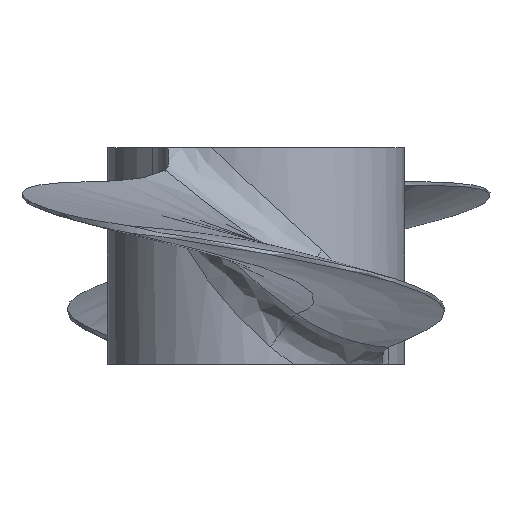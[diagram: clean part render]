
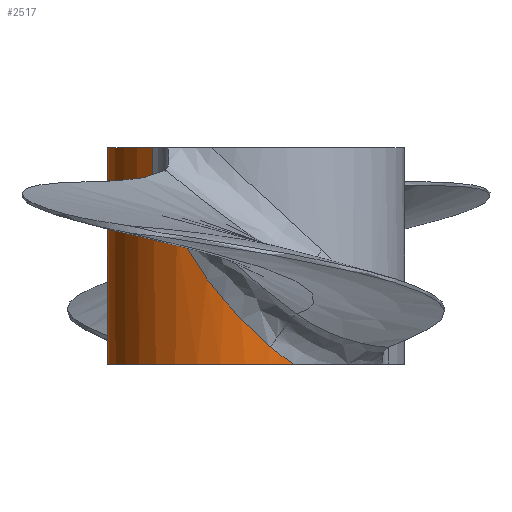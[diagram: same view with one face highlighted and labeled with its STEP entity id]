
A CAD part, left-side view. The second image highlights one B-rep face of the part: STEP entity #2517.
In plain terms, the highlighted cylindrical face has radius 11 mm (diameter 22 mm), a partial arc.
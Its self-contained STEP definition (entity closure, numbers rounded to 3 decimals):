
#52=CARTESIAN_POINT('',(0.,0.,-5.));
#53=DIRECTION('',(0.,0.,1.));
#54=DIRECTION('',(0.,1.,0.));
#55=AXIS2_PLACEMENT_3D('',#52,#53,#54);
#179=CARTESIAN_POINT('',(0.,0.,11.));
#180=DIRECTION('',(0.,0.,-1.));
#181=DIRECTION('',(-0.717,0.697,0.));
#182=AXIS2_PLACEMENT_3D('',#179,#180,#181);
#620=CARTESIAN_POINT('',(-7.884,7.671,8.703));
#621=CARTESIAN_POINT('',(-8.015,7.536,8.35));
#622=CARTESIAN_POINT('',(-8.277,7.253,7.647));
#623=CARTESIAN_POINT('',(-8.777,6.651,6.28));
#624=CARTESIAN_POINT('',(-9.47,5.667,4.324));
#625=CARTESIAN_POINT('',(-10.225,4.198,1.992));
#626=CARTESIAN_POINT('',(-10.727,2.599,
-0.041));
#627=CARTESIAN_POINT('',(-10.899,1.545,-1.2));
#628=CARTESIAN_POINT('',(-10.944,1.105,-1.657));
#629=CARTESIAN_POINT('',(-10.947,1.08,-1.684));
#634=CARTESIAN_POINT('',(-10.947,1.08,-1.684));
#635=CARTESIAN_POINT('',(-10.969,0.852,
-1.915));
#636=CARTESIAN_POINT('',(-11.,0.4,
-2.366));
#637=CARTESIAN_POINT('',(-11.003,-0.271,
-3.007));
#638=CARTESIAN_POINT('',(-10.979,-0.711,
-3.408));
#639=CARTESIAN_POINT('',(-10.961,-0.929,
-3.602));
#644=CARTESIAN_POINT('',(-10.961,-0.929,
-3.602));
#645=CARTESIAN_POINT('',(-10.959,-0.953,
-3.624));
#646=CARTESIAN_POINT('',(-10.955,-1.,
-3.665));
#647=CARTESIAN_POINT('',(-10.95,-1.053,
-3.711));
#648=CARTESIAN_POINT('',(-10.947,-1.079,
-3.734));
#653=CARTESIAN_POINT('',(-10.947,-1.079,
-3.734));
#654=CARTESIAN_POINT('',(-10.915,-1.399,
-4.012));
#655=CARTESIAN_POINT('',(-10.835,-1.964,
-4.459));
#656=CARTESIAN_POINT('',(-10.704,-2.549,
-4.848));
#657=CARTESIAN_POINT('',(-10.639,-2.795,
-5.));
#662=DIRECTION('',(0.,0.,1.));
#663=VECTOR('',#662,16.);
#664=CARTESIAN_POINT('',(0.,11.,-5.));
#665=LINE('',#664,#663);
#669=DIRECTION('',(0.,0.,1.));
#670=VECTOR('',#669,2.297);
#671=CARTESIAN_POINT('',(-7.884,7.671,8.703));
#672=LINE('',#671,#670);
#1251=CARTESIAN_POINT('',(-7.884,7.671,11.));
#1252=VERTEX_POINT('',#1251);
#1253=CARTESIAN_POINT('',(0.,11.,11.));
#1254=VERTEX_POINT('',#1253);
#1261=CARTESIAN_POINT('',(0.,11.,-5.));
#1262=VERTEX_POINT('',#1261);
#1267=CARTESIAN_POINT('',(-7.884,7.671,8.703));
#1268=VERTEX_POINT('',#1267);
#1269=VERTEX_POINT('',#629);
#1270=VERTEX_POINT('',#639);
#1271=VERTEX_POINT('',#648);
#1272=VERTEX_POINT('',#657);
#2498=CARTESIAN_POINT('',(0.,0.,11.));
#2499=DIRECTION('',(0.,0.,-1.));
#2500=DIRECTION('',(-0.967,-0.254,0.));
#2501=AXIS2_PLACEMENT_3D('',#2498,#2499,#2500);
#2502=CYLINDRICAL_SURFACE('',#2501,11.);
#2504=ORIENTED_EDGE('',*,*,#2503,.F.);
#2506=ORIENTED_EDGE('',*,*,#2505,.T.);
#2508=ORIENTED_EDGE('',*,*,#2507,.T.);
#2510=ORIENTED_EDGE('',*,*,#2509,.T.);
#2511=ORIENTED_EDGE('',*,*,#2481,.T.);
#2512=ORIENTED_EDGE('',*,*,#1337,.F.);
#2513=ORIENTED_EDGE('',*,*,#1373,.T.);
#2514=ORIENTED_EDGE('',*,*,#1407,.F.);
#2515=EDGE_LOOP('',(#2504,#2506,#2508,#2510,#2511,#2512,#2513,#2514));
#2516=FACE_OUTER_BOUND('',#2515,.F.);
#2517=ADVANCED_FACE('',(#2516),#2502,.T.);
#56=CIRCLE('',#55,11.);
#183=CIRCLE('',#182,11.);
#630=B_SPLINE_CURVE_WITH_KNOTS('',3,(#620,#621,#622,#623,#624,#625,#626,#627,
#628,#629),.UNSPECIFIED.,.F.,.F.,(4,1,1,1,1,1,1,4),(0.,0.086,
0.172,0.344,0.596,0.834,
0.99,1.),.UNSPECIFIED.);
#640=B_SPLINE_CURVE_WITH_KNOTS('',3,(#634,#635,#636,#637,#638,#639),
.UNSPECIFIED.,.F.,.F.,(4,1,1,4),(0.,0.333,0.667,1.),
.UNSPECIFIED.);
#649=B_SPLINE_CURVE_WITH_KNOTS('',3,(#644,#645,#646,#647,#648),.UNSPECIFIED.,
.F.,.F.,(4,1,4),(0.,0.52,1.),.UNSPECIFIED.);
#658=B_SPLINE_CURVE_WITH_KNOTS('',3,(#653,#654,#655,#656,#657),.UNSPECIFIED.,
.F.,.F.,(4,1,4),(0.,0.583,1.),.UNSPECIFIED.);
#1337=EDGE_CURVE('',#1262,#1272,#56,.T.);
#1373=EDGE_CURVE('',#1262,#1254,#665,.T.);
#1407=EDGE_CURVE('',#1252,#1254,#183,.T.);
#2481=EDGE_CURVE('',#1271,#1272,#658,.T.);
#2503=EDGE_CURVE('',#1268,#1252,#672,.T.);
#2505=EDGE_CURVE('',#1268,#1269,#630,.T.);
#2507=EDGE_CURVE('',#1269,#1270,#640,.T.);
#2509=EDGE_CURVE('',#1270,#1271,#649,.T.);
